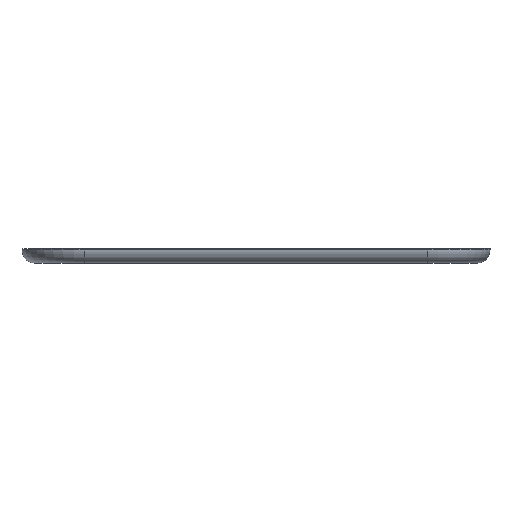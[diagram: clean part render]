
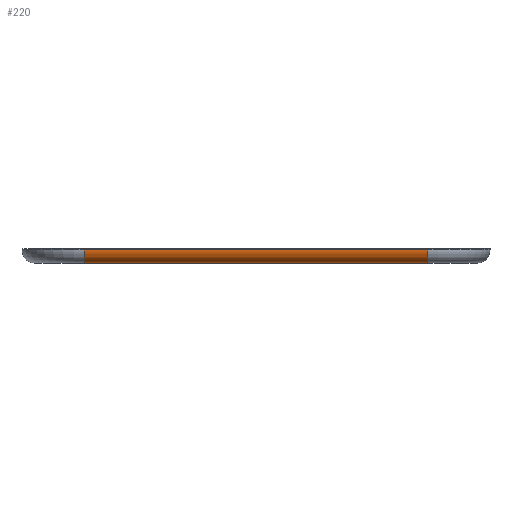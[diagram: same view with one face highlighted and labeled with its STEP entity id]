
A CAD part, left-side view. The second image highlights one B-rep face of the part: STEP entity #220.
In plain terms, the highlighted cylindrical face has radius 3.8 mm (diameter 7.6 mm), a partial arc.
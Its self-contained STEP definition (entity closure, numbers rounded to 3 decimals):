
#22 = VERTEX_POINT('',#23);
#23 = CARTESIAN_POINT('',(-42.8,-49.,-8.6));
#32 = PLANE('',#33);
#33 = AXIS2_PLACEMENT_3D('',#34,#35,#36);
#34 = CARTESIAN_POINT('',(-42.8,-66.8,-12.4));
#35 = DIRECTION('',(1.,0.,0.));
#36 = DIRECTION('',(0.,0.,1.));
#56 = EDGE_CURVE('',#22,#57,#59,.T.);
#57 = VERTEX_POINT('',#58);
#58 = CARTESIAN_POINT('',(-42.8,49.,-8.6));
#59 = SURFACE_CURVE('',#60,(#64,#71),.PCURVE_S1.);
#60 = LINE('',#61,#62);
#61 = CARTESIAN_POINT('',(-42.8,-49.,-8.6));
#62 = VECTOR('',#63,1.);
#63 = DIRECTION('',(0.,1.,0.));
#64 = PCURVE('',#32,#65);
#65 = DEFINITIONAL_REPRESENTATION('',(#66),#70);
#66 = LINE('',#67,#68);
#67 = CARTESIAN_POINT('',(3.8,-17.8));
#68 = VECTOR('',#69,1.);
#69 = DIRECTION('',(0.,-1.));
#70 = ( GEOMETRIC_REPRESENTATION_CONTEXT(2) 
PARAMETRIC_REPRESENTATION_CONTEXT() REPRESENTATION_CONTEXT('2D SPACE',''
  ) );
#71 = PCURVE('',#72,#77);
#72 = CYLINDRICAL_SURFACE('',#73,3.8);
#73 = AXIS2_PLACEMENT_3D('',#74,#75,#76);
#74 = CARTESIAN_POINT('',(-39.,-49.,-8.6));
#75 = DIRECTION('',(0.,1.,0.));
#76 = DIRECTION('',(-1.,0.,0.));
#77 = DEFINITIONAL_REPRESENTATION('',(#78),#82);
#78 = LINE('',#79,#80);
#79 = CARTESIAN_POINT('',(6.283,0.));
#80 = VECTOR('',#81,1.);
#81 = DIRECTION('',(-0.,1.));
#82 = ( GEOMETRIC_REPRESENTATION_CONTEXT(2) 
PARAMETRIC_REPRESENTATION_CONTEXT() REPRESENTATION_CONTEXT('2D SPACE',''
  ) );
#159 = TOROIDAL_SURFACE('',#160,14.,3.8);
#160 = AXIS2_PLACEMENT_3D('',#161,#162,#163);
#161 = CARTESIAN_POINT('',(-25.,-49.,-8.6));
#162 = DIRECTION('',(-0.,-0.,-1.));
#163 = DIRECTION('',(0.,-1.,0.));
#220 = ADVANCED_FACE('',(#221),#72,.T.);
#221 = FACE_BOUND('',#222,.T.);
#222 = EDGE_LOOP('',(#223,#224,#251,#279));
#223 = ORIENTED_EDGE('',*,*,#56,.T.);
#224 = ORIENTED_EDGE('',*,*,#225,.T.);
#225 = EDGE_CURVE('',#57,#226,#228,.T.);
#226 = VERTEX_POINT('',#227);
#227 = CARTESIAN_POINT('',(-39.,49.,-12.4));
#228 = SURFACE_CURVE('',#229,(#234,#240),.PCURVE_S1.);
#229 = CIRCLE('',#230,3.8);
#230 = AXIS2_PLACEMENT_3D('',#231,#232,#233);
#231 = CARTESIAN_POINT('',(-39.,49.,-8.6));
#232 = DIRECTION('',(-0.,-1.,-0.));
#233 = DIRECTION('',(-1.,0.,0.));
#234 = PCURVE('',#72,#235);
#235 = DEFINITIONAL_REPRESENTATION('',(#236),#239);
#236 = B_SPLINE_CURVE_WITH_KNOTS('',1,(#237,#238),.UNSPECIFIED.,.F.,.F.,
  (2,2),(0.,1.571),.PIECEWISE_BEZIER_KNOTS.);
#237 = CARTESIAN_POINT('',(6.283,98.));
#238 = CARTESIAN_POINT('',(4.712,98.));
#239 = ( GEOMETRIC_REPRESENTATION_CONTEXT(2) 
PARAMETRIC_REPRESENTATION_CONTEXT() REPRESENTATION_CONTEXT('2D SPACE',''
  ) );
#240 = PCURVE('',#241,#246);
#241 = TOROIDAL_SURFACE('',#242,14.,3.8);
#242 = AXIS2_PLACEMENT_3D('',#243,#244,#245);
#243 = CARTESIAN_POINT('',(-25.,49.,-8.6));
#244 = DIRECTION('',(-0.,-0.,-1.));
#245 = DIRECTION('',(-1.,0.,0.));
#246 = DEFINITIONAL_REPRESENTATION('',(#247),#250);
#247 = B_SPLINE_CURVE_WITH_KNOTS('',1,(#248,#249),.UNSPECIFIED.,.F.,.F.,
  (2,2),(0.,1.571),.PIECEWISE_BEZIER_KNOTS.);
#248 = CARTESIAN_POINT('',(0.,0.));
#249 = CARTESIAN_POINT('',(0.,1.571));
#250 = ( GEOMETRIC_REPRESENTATION_CONTEXT(2) 
PARAMETRIC_REPRESENTATION_CONTEXT() REPRESENTATION_CONTEXT('2D SPACE',''
  ) );
#251 = ORIENTED_EDGE('',*,*,#252,.F.);
#252 = EDGE_CURVE('',#253,#226,#255,.T.);
#253 = VERTEX_POINT('',#254);
#254 = CARTESIAN_POINT('',(-39.,-49.,-12.4));
#255 = SURFACE_CURVE('',#256,(#260,#267),.PCURVE_S1.);
#256 = LINE('',#257,#258);
#257 = CARTESIAN_POINT('',(-39.,-49.,-12.4));
#258 = VECTOR('',#259,1.);
#259 = DIRECTION('',(0.,1.,0.));
#260 = PCURVE('',#72,#261);
#261 = DEFINITIONAL_REPRESENTATION('',(#262),#266);
#262 = LINE('',#263,#264);
#263 = CARTESIAN_POINT('',(4.712,0.));
#264 = VECTOR('',#265,1.);
#265 = DIRECTION('',(-0.,1.));
#266 = ( GEOMETRIC_REPRESENTATION_CONTEXT(2) 
PARAMETRIC_REPRESENTATION_CONTEXT() REPRESENTATION_CONTEXT('2D SPACE',''
  ) );
#267 = PCURVE('',#268,#273);
#268 = PLANE('',#269);
#269 = AXIS2_PLACEMENT_3D('',#270,#271,#272);
#270 = CARTESIAN_POINT('',(-42.8,-66.8,-12.4));
#271 = DIRECTION('',(0.,0.,1.));
#272 = DIRECTION('',(1.,0.,-0.));
#273 = DEFINITIONAL_REPRESENTATION('',(#274),#278);
#274 = LINE('',#275,#276);
#275 = CARTESIAN_POINT('',(3.8,17.8));
#276 = VECTOR('',#277,1.);
#277 = DIRECTION('',(0.,1.));
#278 = ( GEOMETRIC_REPRESENTATION_CONTEXT(2) 
PARAMETRIC_REPRESENTATION_CONTEXT() REPRESENTATION_CONTEXT('2D SPACE',''
  ) );
#279 = ORIENTED_EDGE('',*,*,#280,.F.);
#280 = EDGE_CURVE('',#22,#253,#281,.T.);
#281 = SURFACE_CURVE('',#282,(#287,#293),.PCURVE_S1.);
#282 = CIRCLE('',#283,3.8);
#283 = AXIS2_PLACEMENT_3D('',#284,#285,#286);
#284 = CARTESIAN_POINT('',(-39.,-49.,-8.6));
#285 = DIRECTION('',(-0.,-1.,-0.));
#286 = DIRECTION('',(-1.,0.,0.));
#287 = PCURVE('',#72,#288);
#288 = DEFINITIONAL_REPRESENTATION('',(#289),#292);
#289 = B_SPLINE_CURVE_WITH_KNOTS('',1,(#290,#291),.UNSPECIFIED.,.F.,.F.,
  (2,2),(0.,1.571),.PIECEWISE_BEZIER_KNOTS.);
#290 = CARTESIAN_POINT('',(6.283,0.));
#291 = CARTESIAN_POINT('',(4.712,0.));
#292 = ( GEOMETRIC_REPRESENTATION_CONTEXT(2) 
PARAMETRIC_REPRESENTATION_CONTEXT() REPRESENTATION_CONTEXT('2D SPACE',''
  ) );
#293 = PCURVE('',#159,#294);
#294 = DEFINITIONAL_REPRESENTATION('',(#295),#298);
#295 = B_SPLINE_CURVE_WITH_KNOTS('',1,(#296,#297),.UNSPECIFIED.,.F.,.F.,
  (2,2),(0.,1.571),.PIECEWISE_BEZIER_KNOTS.);
#296 = CARTESIAN_POINT('',(1.571,0.));
#297 = CARTESIAN_POINT('',(1.571,1.571));
#298 = ( GEOMETRIC_REPRESENTATION_CONTEXT(2) 
PARAMETRIC_REPRESENTATION_CONTEXT() REPRESENTATION_CONTEXT('2D SPACE',''
  ) );
